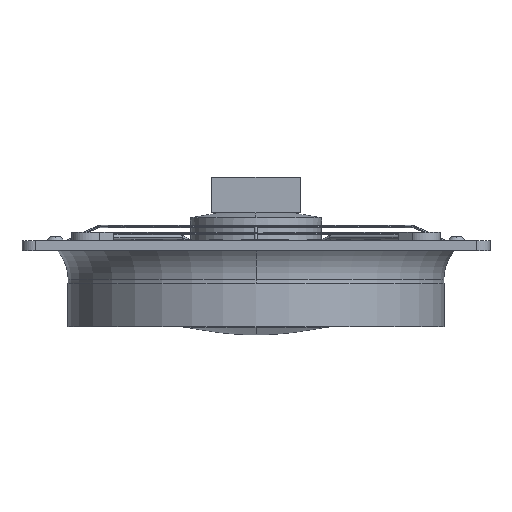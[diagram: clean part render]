
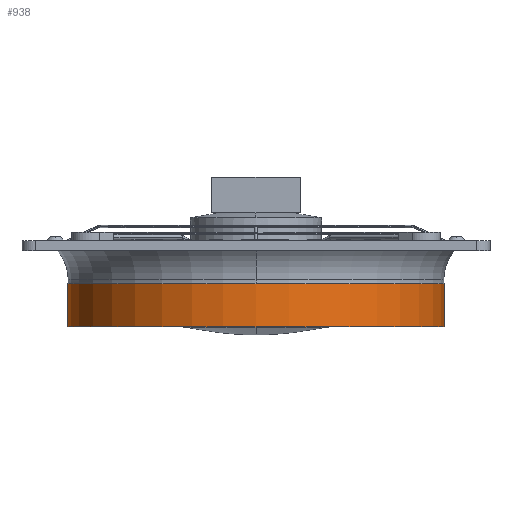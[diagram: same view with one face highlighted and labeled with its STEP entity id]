
A CAD part, left-side view. The second image highlights one B-rep face of the part: STEP entity #938.
In plain terms, the highlighted cylindrical face has radius 225 mm (diameter 450 mm), a partial arc.
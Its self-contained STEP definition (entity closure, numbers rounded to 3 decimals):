
#938=ADVANCED_FACE('',(#1950),#1951,.T.);
#1950=FACE_OUTER_BOUND('',#2969,.T.);
#1951=CYLINDRICAL_SURFACE('',#2970,225.0);
#2969=EDGE_LOOP('',(#6017,#6018,#6019,#6020,#6021));
#2970=AXIS2_PLACEMENT_3D('',#6022,#6023,#6024);
#6017=ORIENTED_EDGE('',*,*,#6379,.T.);
#6018=ORIENTED_EDGE('',*,*,#7337,.F.);
#6019=ORIENTED_EDGE('',*,*,#6380,.T.);
#6020=ORIENTED_EDGE('',*,*,#6376,.T.);
#6021=ORIENTED_EDGE('',*,*,#6124,.T.);
#6022=CARTESIAN_POINT('',(0.,0.0,-65.25));
#6023=DIRECTION('',(0.,0.0,-1.0));
#6024=DIRECTION('',(0.0,1.0,0.0));
#6124=EDGE_CURVE('',#7372,#7370,#7373,.T.);
#6376=EDGE_CURVE('',#7817,#7372,#7818,.T.);
#6379=EDGE_CURVE('',#7370,#7821,#7822,.T.);
#6380=EDGE_CURVE('',#7823,#7817,#7824,.T.);
#7337=EDGE_CURVE('',#7823,#7821,#9151,.T.);
#7370=VERTEX_POINT('',#9192);
#7372=VERTEX_POINT('',#9194);
#7373=CIRCLE('',#9195,225.0);
#7817=VERTEX_POINT('',#13463);
#7818=CIRCLE('',#13464,225.0);
#7821=VERTEX_POINT('',#13467);
#7822=LINE('',#13468,#13469);
#7823=VERTEX_POINT('',#13470);
#7824=LINE('',#13471,#13472);
#9151=CIRCLE('',#19222,225.0);
#9192=CARTESIAN_POINT('',(0.,225.0,-39.5));
#9194=CARTESIAN_POINT('',(-225.0,0.,-39.5));
#9195=AXIS2_PLACEMENT_3D('',#19278,#19279,#19280);
#13463=CARTESIAN_POINT('',(0.,-225.0,-39.5));
#13464=AXIS2_PLACEMENT_3D('',#19479,#19480,#19481);
#13467=CARTESIAN_POINT('',(0.,225.0,-91.0));
#13468=CARTESIAN_POINT('',(0.,225.0,-65.25));
#13469=VECTOR('',#19485,1.0);
#13470=CARTESIAN_POINT('',(0.,-225.0,-91.0));
#13471=CARTESIAN_POINT('',(0.,-225.0,-65.25));
#13472=VECTOR('',#19486,1.0);
#19222=AXIS2_PLACEMENT_3D('',#20488,#20489,#20490);
#19278=CARTESIAN_POINT('',(0.,0.0,-39.5));
#19279=DIRECTION('',(0.,0.0,-1.0));
#19280=DIRECTION('',(0.0,1.0,0.0));
#19479=CARTESIAN_POINT('',(0.,0.0,-39.5));
#19480=DIRECTION('',(0.,0.0,-1.0));
#19481=DIRECTION('',(0.0,1.0,0.0));
#19485=DIRECTION('',(0.,0.0,-1.0));
#19486=DIRECTION('',(0.,-0.0,1.0));
#20488=CARTESIAN_POINT('',(0.,0.0,-91.0));
#20489=DIRECTION('',(0.,0.0,-1.0));
#20490=DIRECTION('',(0.0,1.0,0.0));
